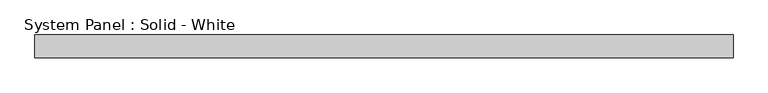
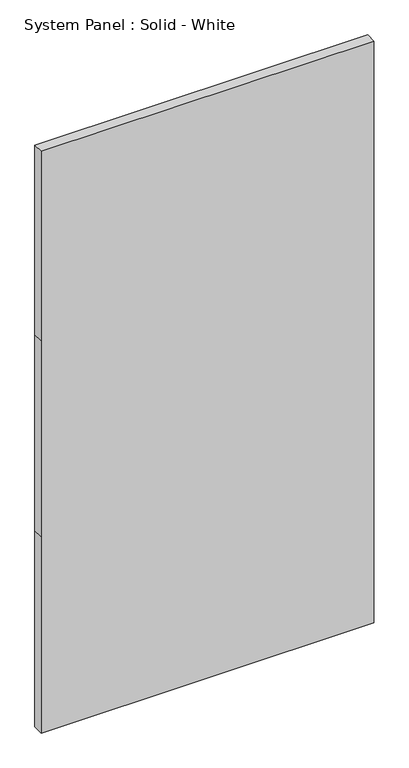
"""IFC4 building model written with IfcOpenShell, lengths in millimetres: plate geometry, System Panel : Solid - White."""

from ifc_helpers import new_model, si_unit, frame, origin, place, context, project, spatial, polyline, outline, extrude, source, transform, mapped, element, save


def system_panel_solid_white_665c4a0c(model_context):
    return source(origin(), model_context, "Body", "SweptSolid", [
        extrude(outline(polyline([(0.0, -977.9), (0.0, 977.9), (1219.2, 977.9), (2438.4, 977.9), (3615.7975583, 977.9), (3615.7975583, -977.9), (2438.4, -977.9), (1219.2, -977.9), (0.0, -977.9)])), frame((0.0, -44.45, 0.0), z_axis=(0.0, 1.0, 0.0), x_axis=(0.0, 0.0, 1.0)), (0.0, 0.0, 1.0), 63.5),
    ])


if __name__ == "__main__":
    model = new_model("IFC4")
    model_context = context("Model", 3, world=origin())
    ifc_project = project(units=[si_unit("LENGTHUNIT", "METRE", prefix="MILLI")], contexts=[model_context])
    site = spatial("IfcSite", under=ifc_project)
    building = spatial("IfcBuilding", under=site)
    placement = place(None, origin())
    system_panel_solid_white_shape = system_panel_solid_white_665c4a0c(model_context)
    element("IfcPlate", 1, ObjectType="System Panel : Solid - White", at=placement, inside=building, context=model_context, shape_type="MappedRepresentation", body=[
        mapped(system_panel_solid_white_shape, transform((0.0, 0.0, 0.0), x_axis=(1.0, 0.0, 0.0), y_axis=(0.0, 1.0, 0.0), z_axis=(0.0, 0.0, 1.0))),
    ])
    save(model, "model.ifc")
